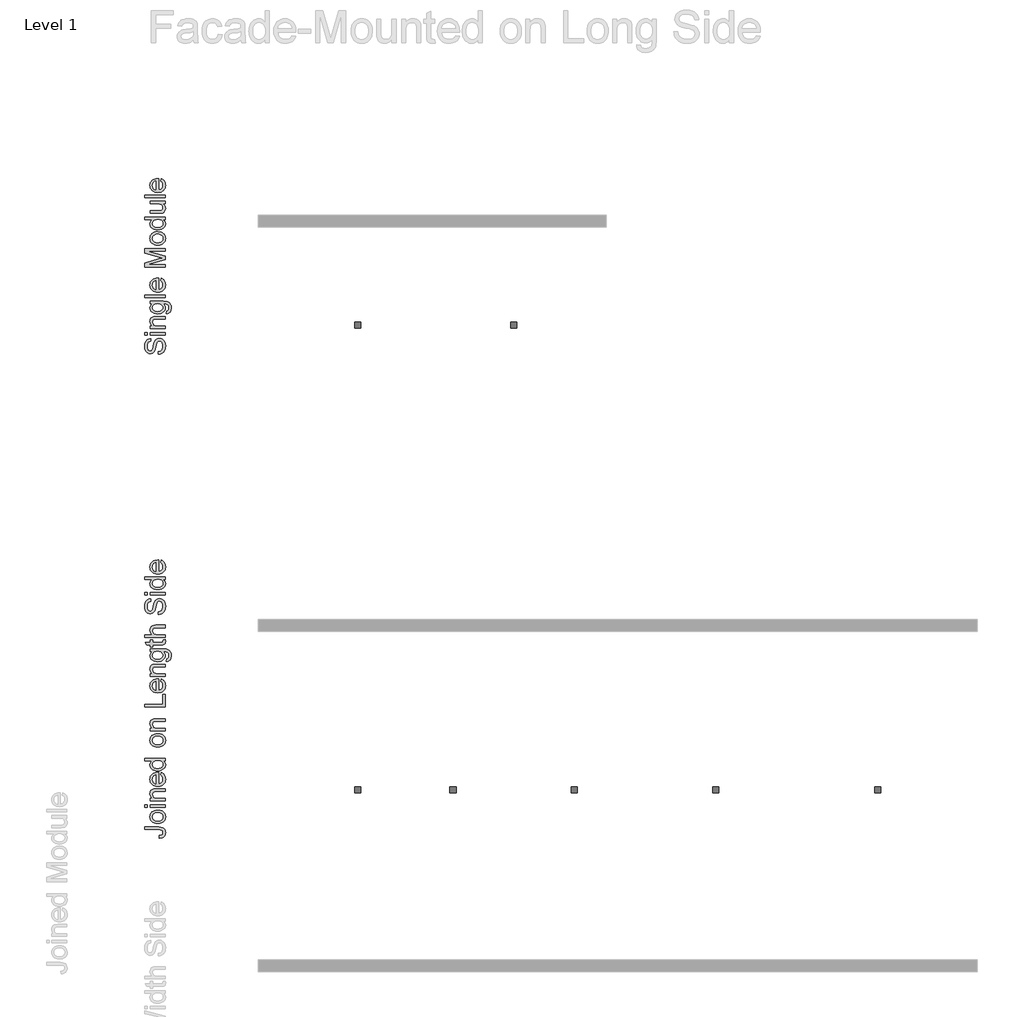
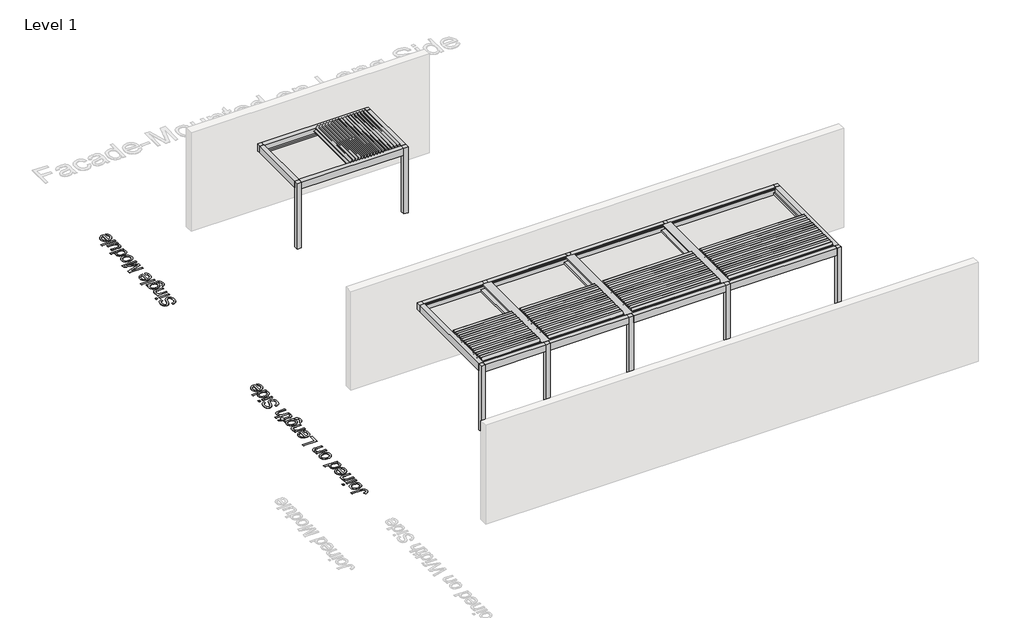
# One storey, part 18 of 69: 4 proxies.
"""IFC4 building model written with IfcOpenShell, lengths in millimetres."""

from ifc_helpers import new_model, si_unit, origin, origin_with_axes, place, context, project, spatial, polyline, outline, extrude, transform, mapped, element, save
from components import generic_models_02ebf654, generic_models_adc54a13, generic_models_c182b0fb

model = new_model("IFC4")

# Units and contexts
model_context = context("Model", 3, world=origin())
ifc_project = project(units=[si_unit("LENGTHUNIT", "METRE", prefix="MILLI")], contexts=[model_context])

# Site, building, storey
site = spatial("IfcSite", under=ifc_project)
building = spatial("IfcBuilding", under=site)
storey = spatial("IfcBuildingStorey", under=building, Name="Level 1", Elevation=0.0)

# Proxies
placement = place(None, origin())
generic_models_shape = generic_models_02ebf654(model_context)
element("IfcBuildingElementProxy", 1, Name="Renson_Camargue_Skye_Facade-Mounted_Patio covers : Renson_Camargue_Skye_Facade-Mounted_Patio covers", ObjectType="Renson_Camargue_Skye_Facade-Mounted_Patio covers : Renson_Camargue_Skye_Facade-Mounted_Patio covers", at=placement, inside=storey, context=model_context, shape_type="MappedRepresentation", body=[
    mapped(generic_models_shape, transform((89532.7944478, -10975.9863343, 0.0), x_axis=(1.0, 0.0, 0.0), y_axis=(0.0, 1.0, 0.0), z_axis=(0.0, 0.0, 1.0))),
])
generic_models_2_shape = generic_models_adc54a13(model_context)
generic_models_3_shape = generic_models_c182b0fb(model_context)
element("IfcBuildingElementProxy", 2, Name="Renson_Camargue_Skye_Facade-Mounted_Patio covers : Renson_Camargue_Skye_Facade-Mounted_Patio covers", ObjectType="Renson_Camargue_Skye_Facade-Mounted_Patio covers : Renson_Camargue_Skye_Facade-Mounted_Patio covers", at=placement, inside=storey, context=model_context, shape_type="MappedRepresentation", body=[
    mapped(generic_models_2_shape, transform((88782.7944478, -21725.9863343, 0.0), x_axis=(1.0, 0.0, 0.0), y_axis=(0.0, 1.0, 0.0), z_axis=(0.0, 0.0, 1.0))),
    mapped(generic_models_3_shape, transform((88782.7944478, -21725.9863343, 0.0), x_axis=(1.0, 0.0, 0.0), y_axis=(0.0, 1.0, 0.0), z_axis=(0.0, 0.0, 1.0))),
])
element("IfcBuildingElementProxy", 3, Name="500mm Arial", ObjectType="500mm Arial", at=placement, inside=storey, context=model_context, shape_type="SweptSolid", body=[
    extrude(outline(polyline([(82669.9627665, -12871.2770418), (82669.9627665, -12808.491848), (82704.8042571, -12801.2874922), (82732.809274, -12788.2583382), (82755.0354779, -12767.932858), (82772.5405295, -12738.8395236), (82783.8988861, -12703.2775974), (82787.685005, -12663.5463419), (82784.8185911, -12628.5668955), (82776.2193494, -12597.9407194), (82762.6077156, -12573.1240132), (82744.7041252, -12555.5729763), (82724.1487187, -12545.1343247), (82702.5816367, -12541.6547741), (82681.5663778, -12544.2606049), (82663.4022043, -12552.0780973), (82647.9051752, -12567.9583368), (82634.8913496, -12594.7524088), (82610.9177063, -12686.1710846), (82595.0527952, -12746.181835), (82579.954305, -12784.5795183), (82558.8317471, -12815.8341595), (82533.2332916, -12837.9837213), (82503.7107615, -12851.1814878), (82470.8159798, -12855.5807434), (82434.0431087, -12850.1391555), (82399.753441, -12833.814392), (82384.2257552, -12821.6781182), (82370.6907634, -12807.0356484), (82349.5988624, -12770.2321205), (82336.7689778, -12726.0556242), (82332.4923496, -12677.1579757), (82336.9682472, -12624.1829684), (82350.39594, -12577.829837), (82372.4995166, -12539.7540505), (82386.7012944, -12524.4409625), (82403.0030653, -12511.6110779), (82440.0058627, -12493.7994579), (82481.607185, -12486.7177295), (82481.607185, -12549.5029234), (82461.5729447, -12553.7029095), (82444.1445351, -12561.0298926), (82429.3219564, -12571.4838726), (82417.1052085, -12585.0648496), (82407.555605, -12602.0257424), (82400.7344597, -12622.6194699), (82395.2775434, -12674.7054291), (82400.673146, -12728.0176615), (82407.4176493, -12748.3967912), (82416.8599538, -12764.5912632), (82428.2106462, -12776.9306385), (82440.680313, -12785.7444779), (82454.2689542, -12791.0327816), (82468.9765698, -12792.7955495), (82493.1034973, -12787.7984858), (82512.5092726, -12772.8072944), (82521.139171, -12759.0423765), (82529.86104, -12737.3679956), (82547.5806894, -12670.2908451), (82564.4112907, -12601.0677164), (82579.0959137, -12559.1904826), (82601.8739406, -12523.3986301), (82629.9862564, -12498.4286397), (82663.1262928, -12483.7593452), (82700.9874814, -12478.8695803), (82739.691733, -12484.4951091), (82776.0967221, -12501.3716957), (82807.4280054, -12528.8095611), (82830.9111394, -12566.1189268), (82845.5804339, -12610.9852018), (82850.4701988, -12661.0937952), (82845.1972235, -12722.6067305), (82838.6060045, -12749.2820073), (82829.3782977, -12773.2364901), (82817.498775, -12794.615799), (82802.9521078, -12813.5655538), (82785.7382961, -12830.0857547), (82765.8573399, -12844.1764015), (82743.9530328, -12855.5270939), (82720.6691682, -12863.8274314), (82696.0057461, -12869.0774141), (82669.9627665, -12871.2770418)])), origin_with_axes(), (0.0, 0.0, 1.0), 5.0),
    extrude(outline(polyline([(82403.1256927, -12392.5399388), (82340.3404988, -12392.5399388), (82340.3404988, -12329.7547449), (82403.1256927, -12329.7547449), (82403.1256927, -12392.5399388)])), origin_with_axes(), (0.0, 0.0, 1.0), 5.0),
    extrude(outline(polyline([(82842.6220496, -12392.5399388), (82473.7590357, -12392.5399388), (82473.7590357, -12329.7547449), (82842.6220496, -12329.7547449), (82842.6220496, -12392.5399388)])), origin_with_axes(), (0.0, 0.0, 1.0), 5.0),
    extrude(outline(polyline([(82842.6220496, -12235.5769542), (82473.7590357, -12235.5769542), (82473.7590357, -12172.7917603), (82525.2625151, -12172.7917603), (82499.2961776, -12150.9794237), (82480.7487936, -12124.7831599), (82469.6203633, -12094.2029691), (82465.9108865, -12059.2388511), (82468.8999277, -12028.2907783), (82477.8670514, -11999.9485362), (82491.693283, -11976.3121181), (82509.2596483, -11959.4815168), (82530.5201619, -11948.0618465), (82555.4288387, -11940.6582214), (82616.1293679, -11937.3472834), (82842.6220496, -11937.3472834), (82842.6220496, -12000.1324772), (82624.5906538, -12000.1324772), (82592.1250677, -12001.9412304), (82569.0404725, -12007.3674898), (82552.5011111, -12017.3769458), (82539.6712265, -12032.9352885), (82531.4398669, -12052.8775583), (82528.6960804, -12076.0387956), (82530.2365862, -12095.1035136), (82534.8581038, -12112.8116667), (82542.560633, -12129.163255), (82553.344174, -12144.1582784), (82568.435, -12156.6854267), (82589.0593844, -12165.6333898), (82615.2173271, -12171.0021677), (82646.9088281, -12172.7917603), (82842.6220496, -12172.7917603), (82842.6220496, -12235.5769542)])), origin_with_axes(), (0.0, 0.0, 1.0), 5.0),
    extrude(outline(polyline([(82874.0146465, -11866.7139403), (82881.8627957, -11803.9287465), (82901.4831688, -11797.0003022), (82914.9721753, -11783.5726094), (82925.4568122, -11757.1770763), (82928.9516911, -11722.6268256), (82924.9969597, -11685.7773124), (82913.1327653, -11658.3701037), (82894.1255289, -11639.3628673), (82868.7416712, -11627.7132708), (82841.7330014, -11624.3103623), (82795.5331542, -11623.4213142), (82816.1345459, -11644.3139458), (82830.8498257, -11667.6284673), (82839.6789936, -11693.3648785), (82842.6220496, -11721.5231796), (82839.1961485, -11755.9469708), (82828.9184453, -11786.2550823), (82811.7889399, -11812.4475139), (82787.8076323, -11834.5242658), (82759.0361946, -11852.0408137), (82727.5362987, -11864.5526336), (82693.3079448, -11872.0597256), (82656.3511327, -11874.5620896), (82605.6600594, -11870.0708635), (82559.046345, -11856.5971855), (82519.5450157, -11834.6162363), (82503.5996305, -11820.6137278), (82490.1910982, -11804.6031968), (82479.5685056, -11786.8413942), (82471.9809394, -11767.585071), (82467.4283997, -11746.8342273), (82465.9108865, -11724.5888629), (82469.3444518, -11695.2272811), (82479.6451477, -11668.5788291), (82496.8129741, -11644.6435068), (82520.8479311, -11623.4213142), (82473.7590357, -11623.4213142), (82473.7590357, -11560.6361203), (82792.2222162, -11560.6361203), (82865.75263, -11564.928077), (82893.1023571, -11570.2930227), (82914.1750976, -11577.8039468), (82946.2881301, -11599.9841654), (82970.8902386, -11632.1891684), (82980.0106464, -11651.8746873), (82986.5252234, -11673.7138486), (82991.736885, -11723.8530989), (82989.9013071, -11754.6133986), (82984.3945735, -11782.269694), (82975.2166841, -11806.8219851), (82962.367639, -11828.2702718), (82945.8321097, -11845.5952145), (82925.5947679, -11857.7774735), (82901.6556135, -11864.8170488), (82874.0146465, -11866.7139403)]), holes=[polyline([(82652.0591761, -11811.7768957), (82683.1030515, -11810.1022662), (82709.6480367, -11805.0783777), (82731.6941317, -11796.7052302), (82749.2413365, -11784.9828237), (82762.6268761, -11770.7312285), (82772.1879759, -11754.7705149), (82777.9246358, -11737.1006828), (82779.8368557, -11717.7217323), (82777.9361321, -11698.534387), (82772.2339612, -11680.9488612), (82762.730343, -11664.9651549), (82749.4252775, -11650.5832682), (82732.0505174, -11638.6999133), (82710.3378155, -11630.2118027), (82684.2871717, -11625.1189363), (82653.898586, -11623.4213142), (82624.7784269, -11625.1687537), (82599.4673792, -11630.4110721), (82577.965443, -11639.1482695), (82560.2726183, -11651.3803458), (82546.4578829, -11666.072633), (82536.5902148, -11682.1904629), (82530.669614, -11699.7338356), (82528.6960804, -11718.7027509), (82530.6389571, -11737.3536017), (82536.4675875, -11754.555917), (82546.1819714, -11770.3096971), (82559.7821089, -11784.6149417), (82577.2066864, -11796.4982966), (82598.39439, -11804.9864072), (82623.3452199, -11810.0792736), (82652.0591761, -11811.7768957)])]), origin_with_axes(), (0.0, 0.0, 1.0), 5.0),
    extrude(outline(polyline([(82842.6220496, -11466.4583296), (82340.3404988, -11466.4583296), (82340.3404988, -11403.6731357), (82842.6220496, -11403.6731357), (82842.6220496, -11466.4583296)])), origin_with_axes(), (0.0, 0.0, 1.0), 5.0),
    extrude(outline(polyline([(82732.7479603, -11051.2421844), (82740.5961096, -10989.6832638), (82765.2518675, -10999.1217363), (82786.9798978, -11011.8634825), (82805.7802006, -11027.9085024), (82821.6527758, -11047.2567961), (82834.2603984, -11069.7090941), (82843.2658431, -11095.066127), (82848.6691099, -11123.3278949), (82850.4701988, -11154.4943977), (82847.3623624, -11193.4515681), (82838.038853, -11228.1627672), (82822.4996709, -11258.6279949), (82800.7448158, -11284.8472513), (82773.3797603, -11305.9314881), (82741.0099768, -11320.9916573), (82703.6354654, -11330.0277588), (82661.2562259, -11333.0397927), (82617.4399475, -11329.997102), (82578.8200022, -11320.86903), (82545.3963901, -11305.6555766), (82517.1691112, -11284.356742), (82494.7436379, -11258.2064635), (82478.7254427, -11228.4386787), (82469.1145256, -11195.0533876), (82465.9108865, -11158.0505903), (82469.1068613, -11122.2395773), (82478.6947858, -11089.8544654), (82494.67466, -11060.8952546), (82517.0464838, -11035.3619449), (82545.2124491, -11014.5191306), (82578.5747475, -10999.6314061), (82617.1333792, -10990.6987714), (82660.888344, -10987.7212265), (82677.8109157, -10988.0891085), (82677.8109157, -11270.2545988), (82702.8652124, -11266.617932), (82724.8078406, -11259.3867515), (82743.6388002, -11248.5610574), (82759.3580913, -11234.1408496), (82771.751116, -11216.9232058), (82780.6032766, -11197.7052037), (82785.9145729, -11176.4868432), (82787.685005, -11153.2681243), (82784.4047238, -11119.8521765), (82774.5638805, -11091.7092038), (82757.5493382, -11068.8392065), (82732.7479603, -11051.2421844)]), holes=[polyline([(82615.0257219, -11270.2545988), (82615.0257219, -11050.5064204), (82581.8550287, -11058.9983631), (82558.12664, -11075.6450234), (82545.2507701, -11092.7668646), (82536.0537203, -11112.2492819), (82530.5354903, -11134.0922754), (82528.6960804, -11158.295845), (82534.5668639, -11200.6176028), (82541.9053432, -11219.0308631), (82552.1792144, -11235.6123776), (82564.9132964, -11249.5267477), (82579.6324083, -11259.9385745), (82596.3365501, -11266.8478583), (82615.0257219, -11270.2545988)])]), origin_with_axes(), (0.0, 0.0, 1.0), 5.0),
    extrude(outline(polyline([(82842.6220496, -10720.8841527), (82340.3404988, -10720.8841527), (82340.3404988, -10612.8494734), (82694.3656055, -10510.0877694), (82768.3098865, -10489.3637504), (82688.2342389, -10466.9229487), (82340.3404988, -10365.8780273), (82340.3404988, -10257.8433481), (82842.6220496, -10257.8433481), (82842.6220496, -10320.6285419), (82403.1256927, -10320.6285419), (82842.6220496, -10446.8120663), (82842.6220496, -10531.9154345), (82403.1256927, -10658.0989588), (82842.6220496, -10658.0989588), (82842.6220496, -10720.8841527)])), origin_with_axes(), (0.0, 0.0, 1.0), 5.0),
    extrude(outline(polyline([(82658.1905427, -10171.5137066), (82610.4195327, -10168.1184623), (82569.2550703, -10157.9327296), (82534.6971554, -10140.9565083), (82506.745788, -10117.1897986), (82488.8805186, -10093.2621405), (82476.1196119, -10066.8512789), (82468.4630679, -10037.9572139), (82465.9108865, -10006.5799454), (82469.0187229, -9971.9415563), (82478.3422323, -9940.6217693), (82493.8814145, -9912.6205846), (82515.6362695, -9887.9380019), (82542.8710335, -9867.7926306), (82574.8499423, -9853.4030796), (82611.5729961, -9844.7693491), (82653.0401947, -9841.8914389), (82716.4691821, -9846.9804731), (82742.5044974, -9853.341766), (82764.7536939, -9862.2475759), (82783.9716961, -9873.586772), (82800.9134284, -9887.2482232), (82815.5788908, -9903.2319295), (82827.9680834, -9921.5378908), (82844.84467, -9962.2654934), (82850.4701988, -10006.5799454), (82847.3738587, -10041.7241722), (82838.0848383, -10073.3351991), (82822.6031377, -10101.413026), (82800.9287568, -10125.9576528), (82773.4295776, -10145.8884263), (82740.4734822, -10160.1246931), (82702.0604706, -10168.6664532), (82658.1905427, -10171.5137066)]), holes=[polyline([(82658.0679153, -10108.7285127), (82688.5216467, -10106.9120954), (82714.8903552, -10101.4628433), (82737.1740406, -10092.3807566), (82755.372703, -10079.6658351), (82769.5093351, -10064.1994629), (82779.6069295, -10046.8630239), (82785.6654861, -10027.656518), (82787.685005, -10006.5799454), (82785.6539898, -9985.6106717), (82779.5609442, -9966.4808079), (82769.4058683, -9949.1903541), (82755.1887621, -9933.7393103), (82736.8099907, -9921.0243889), (82714.1699196, -9911.9423021), (82687.2685487, -9906.4930501), (82656.105878, -9904.6766327), (82626.6178368, -9906.5045464), (82600.9389072, -9911.9882874), (82579.069089, -9921.1278557), (82561.0083823, -9933.9232513), (82546.8717502, -9949.4317767), (82536.7741558, -9966.7107342), (82530.7155992, -9985.7601237), (82528.6960804, -10006.5799454), (82530.707935, -10027.656518), (82536.743499, -10046.8630239), (82546.8027723, -10064.1994629), (82560.8857549, -10079.6658351), (82579.0307679, -10092.3807566), (82601.2761323, -10101.4628433), (82627.6218481, -10106.9120954), (82658.0679153, -10108.7285127)])]), origin_with_axes(), (0.0, 0.0, 1.0), 5.0),
    extrude(outline(polyline([(82842.6220496, -9543.6617681), (82783.3930483, -9543.6617681), (82812.7393017, -9562.4467425), (82833.7009112, -9585.2017767), (82846.2778769, -9611.9268708), (82850.4701988, -9642.6220248), (82844.4001459, -9683.2116716), (82826.1899871, -9720.3677531), (82797.1119811, -9751.8216637), (82758.4383863, -9775.3047977), (82711.7327014, -9789.9281071), (82658.5584247, -9794.8025435), (82606.0432698, -9790.3113175), (82558.6171493, -9776.8376394), (82537.4869272, -9766.7362129), (82518.9778643, -9754.3968377), (82503.0899606, -9739.8195136), (82489.8232162, -9723.0042408), (82471.8889689, -9685.0357532), (82465.9108865, -9642.8672795), (82470.1875147, -9612.1491329), (82483.0173993, -9584.9871789), (82502.6837576, -9561.9638974), (82527.469807, -9543.6617681), (82340.3404988, -9543.6617681), (82340.3404988, -9480.8765743), (82842.6220496, -9480.8765743), (82842.6220496, -9543.6617681)]), holes=[polyline([(82658.31317, -9732.0173497), (82688.7592372, -9730.2469175), (82715.104953, -9724.9356212), (82737.3503174, -9716.0834607), (82755.4953304, -9703.690436), (82769.578313, -9688.8908499), (82779.6375863, -9672.8190053), (82785.6731503, -9655.474902), (82787.685005, -9636.8585402), (82785.7651208, -9618.15404), (82780.0054683, -9600.9134036), (82770.4060475, -9585.136631), (82756.9668584, -9570.8237221), (82739.580602, -9558.9403672), (82718.1399795, -9550.4522566), (82692.6449908, -9545.3593902), (82663.0956359, -9543.6617681), (82630.6990277, -9545.3900471), (82602.9162729, -9550.5748839), (82579.7473714, -9559.2162787), (82561.1923233, -9571.3142314), (82546.975217, -9585.9413728), (82536.8201411, -9602.1703338), (82530.7270955, -9620.0011142), (82528.6960804, -9639.4337142), (82530.6466213, -9658.417958), (82536.4982443, -9675.7620612), (82546.2509493, -9691.4660239), (82559.9047363, -9705.529846), (82577.7585094, -9717.1181288), (82600.1111727, -9725.3954737), (82626.9627262, -9730.3618807), (82658.31317, -9732.0173497)])]), origin_with_axes(), (0.0, 0.0, 1.0), 5.0),
    extrude(outline(polyline([(82842.6220496, -9151.2543066), (82779.2237191, -9151.2543066), (82810.394054, -9173.9710198), (82832.6585789, -9200.4278666), (82846.0172938, -9230.6248471), (82850.4701988, -9264.5619611), (82847.3432018, -9295.142152), (82837.962211, -9323.6070213), (82823.8600678, -9347.4886942), (82806.569614, -9364.3192955), (82785.5696835, -9375.6469952), (82760.33911, -9383.0199636), (82701.9685001, -9386.6987835), (82473.7590357, -9386.6987835), (82473.7590357, -9323.9135897), (82672.4153131, -9323.9135897), (82736.4267803, -9320.1121424), (82757.7792644, -9310.9610778), (82774.0120575, -9295.2801077), (82784.2667681, -9274.1115646), (82787.685005, -9248.4977807), (82784.190126, -9221.4124688), (82773.7054891, -9196.0745963), (82757.1967846, -9175.1819647), (82735.6297026, -9161.4323751), (82706.0918441, -9153.7988237), (82665.6708099, -9151.2543066), (82473.7590357, -9151.2543066), (82473.7590357, -9088.4691128), (82842.6220496, -9088.4691128), (82842.6220496, -9151.2543066)])), origin_with_axes(), (0.0, 0.0, 1.0), 5.0),
    extrude(outline(polyline([(82842.6220496, -9002.1394712), (82340.3404988, -9002.1394712), (82340.3404988, -8939.3542774), (82842.6220496, -8939.3542774), (82842.6220496, -9002.1394712)])), origin_with_axes(), (0.0, 0.0, 1.0), 5.0),
    extrude(outline(polyline([(82732.7479603, -8586.923326), (82740.5961096, -8525.3644055), (82765.2518675, -8534.8028779), (82786.9798978, -8547.5446241), (82805.7802006, -8563.589644), (82821.6527758, -8582.9379377), (82834.2603984, -8605.3902357), (82843.2658431, -8630.7472687), (82848.6691099, -8659.0090365), (82850.4701988, -8690.1755393), (82847.3623624, -8729.1327098), (82838.038853, -8763.8439088), (82822.4996709, -8794.3091366), (82800.7448158, -8820.5283929), (82773.3797603, -8841.6126298), (82741.0099768, -8856.672799), (82703.6354654, -8865.7089005), (82661.2562259, -8868.7209343), (82617.4399475, -8865.6782436), (82578.8200022, -8856.5501716), (82545.3963901, -8841.3367183), (82517.1691112, -8820.0378836), (82494.7436379, -8793.8876051), (82478.7254427, -8764.1198203), (82469.1145256, -8730.7345293), (82465.9108865, -8693.7317319), (82469.1068613, -8657.920719), (82478.6947858, -8625.5356071), (82494.67466, -8596.5763963), (82517.0464838, -8571.0430865), (82545.2124491, -8550.2002722), (82578.5747475, -8535.3125478), (82617.1333792, -8526.3799131), (82660.888344, -8523.4023682), (82677.8109157, -8523.7702502), (82677.8109157, -8805.9357405), (82702.8652124, -8802.2990737), (82724.8078406, -8795.0678932), (82743.6388002, -8784.2421991), (82759.3580913, -8769.8219913), (82771.751116, -8752.6043475), (82780.6032766, -8733.3863453), (82785.9145729, -8712.1679848), (82787.685005, -8688.949266), (82784.4047238, -8655.5333181), (82774.5638805, -8627.3903455), (82757.5493382, -8604.5203481), (82732.7479603, -8586.923326)]), holes=[polyline([(82615.0257219, -8805.9357405), (82615.0257219, -8586.187562), (82581.8550287, -8594.6795047), (82558.12664, -8611.326165), (82545.2507701, -8628.4480062), (82536.0537203, -8647.9304235), (82530.5354903, -8669.773417), (82528.6960804, -8693.9769866), (82534.5668639, -8736.2987445), (82541.9053432, -8754.7120047), (82552.1792144, -8771.2935192), (82564.9132964, -8785.2078893), (82579.6324083, -8795.6197162), (82596.3365501, -8802.5289999), (82615.0257219, -8805.9357405)])]), origin_with_axes(), (0.0, 0.0, 1.0), 5.0),
])
element("IfcBuildingElementProxy", 4, Name="500mm Arial", ObjectType="500mm Arial", at=placement, inside=storey, context=model_context, shape_type="SweptSolid", body=[
    extrude(outline(polyline([(82701.6006181, -24838.7531425), (82693.5072142, -24775.9679487), (82739.1552384, -24769.4380433), (82755.5643083, -24763.023101), (82767.6967499, -24754.5081656), (82782.6879412, -24731.6994819), (82787.685005, -24701.5331583), (82784.8492479, -24678.3412642), (82776.3419768, -24658.5522786), (82762.9449408, -24643.2851758), (82745.4398892, -24633.6589302), (82720.1020168, -24628.5545675), (82683.2065183, -24626.8531133), (82340.3404988, -24626.8531133), (82340.3404988, -24564.0679195), (82682.1028723, -24564.0679195), (82738.0056072, -24567.8540383), (82779.6529147, -24579.2123949), (82810.0798214, -24598.8021112), (82832.3213537, -24627.282309), (82845.9329875, -24663.0435046), (82850.4701988, -24704.4762143), (82848.1287832, -24735.4166229), (82841.1045363, -24762.509599), (82829.3974583, -24785.7551426), (82813.007549, -24805.1532536), (82791.9961221, -24820.3590428), (82766.4244913, -24831.0276206), (82736.2926567, -24837.1589872), (82701.6006181, -24838.7531425)])), origin_with_axes(), (0.0, 0.0, 1.0), 5.0),
    extrude(outline(polyline([(82658.1905427, -24477.7382779), (82610.4195327, -24474.3430337), (82569.2550703, -24464.157301), (82534.6971554, -24447.1810797), (82506.745788, -24423.41437), (82488.8805186, -24399.4867119), (82476.1196119, -24373.0758503), (82468.4630679, -24344.1817853), (82465.9108865, -24312.8045168), (82469.0187229, -24278.1661277), (82478.3422323, -24246.8463407), (82493.8814145, -24218.8451559), (82515.6362695, -24194.1625733), (82542.8710335, -24174.017202), (82574.8499423, -24159.627651), (82611.5729961, -24150.9939205), (82653.0401947, -24148.1160103), (82716.4691821, -24153.2050445), (82742.5044974, -24159.5663374), (82764.7536939, -24168.4721473), (82783.9716961, -24179.8113434), (82800.9134284, -24193.4727946), (82815.5788908, -24209.4565009), (82827.9680834, -24227.7624622), (82844.84467, -24268.4900648), (82850.4701988, -24312.8045168), (82847.3738587, -24347.9487436), (82838.0848383, -24379.5597705), (82822.6031377, -24407.6375973), (82800.9287568, -24432.1822242), (82773.4295776, -24452.1129977), (82740.4734822, -24466.3492645), (82702.0604706, -24474.8910246), (82658.1905427, -24477.7382779)]), holes=[polyline([(82658.0679153, -24414.9530841), (82688.5216467, -24413.1366667), (82714.8903552, -24407.6874147), (82737.1740406, -24398.6053279), (82755.372703, -24385.8904065), (82769.5093351, -24370.4240343), (82779.6069295, -24353.0875952), (82785.6654861, -24333.8810894), (82787.685005, -24312.8045168), (82785.6539898, -24291.835243), (82779.5609442, -24272.7053793), (82769.4058683, -24255.4149255), (82755.1887621, -24239.9638817), (82736.8099907, -24227.2489603), (82714.1699196, -24218.1668735), (82687.2685487, -24212.7176215), (82656.105878, -24210.9012041), (82626.6178368, -24212.7291178), (82600.9389072, -24218.2128588), (82579.069089, -24227.3524271), (82561.0083823, -24240.1478227), (82546.8717502, -24255.6563481), (82536.7741558, -24272.9353055), (82530.7155992, -24291.9846951), (82528.6960804, -24312.8045168), (82530.707935, -24333.8810894), (82536.743499, -24353.0875952), (82546.8027723, -24370.4240343), (82560.8857549, -24385.8904065), (82579.0307679, -24398.6053279), (82601.2761323, -24407.6874147), (82627.6218481, -24413.1366667), (82658.0679153, -24414.9530841)])]), origin_with_axes(), (0.0, 0.0, 1.0), 5.0),
    extrude(outline(polyline([(82403.1256927, -24077.4826672), (82340.3404988, -24077.4826672), (82340.3404988, -24014.6974733), (82403.1256927, -24014.6974733), (82403.1256927, -24077.4826672)])), origin_with_axes(), (0.0, 0.0, 1.0), 5.0),
    extrude(outline(polyline([(82842.6220496, -24077.4826672), (82473.7590357, -24077.4826672), (82473.7590357, -24014.6974733), (82842.6220496, -24014.6974733), (82842.6220496, -24077.4826672)])), origin_with_axes(), (0.0, 0.0, 1.0), 5.0),
    extrude(outline(polyline([(82842.6220496, -23920.5196826), (82473.7590357, -23920.5196826), (82473.7590357, -23857.7344887), (82525.2625151, -23857.7344887), (82499.2961776, -23835.9221521), (82480.7487936, -23809.7258884), (82469.6203633, -23779.1456975), (82465.9108865, -23744.1815796), (82468.8999277, -23713.2335067), (82477.8670514, -23684.8912647), (82491.693283, -23661.2548465), (82509.2596483, -23644.4242452), (82530.5201619, -23633.0045749), (82555.4288387, -23625.6009498), (82616.1293679, -23622.2900118), (82842.6220496, -23622.2900118), (82842.6220496, -23685.0752057), (82624.5906538, -23685.0752057), (82592.1250677, -23686.8839588), (82569.0404725, -23692.3102182), (82552.5011111, -23702.3196742), (82539.6712265, -23717.8780169), (82531.4398669, -23737.8202867), (82528.6960804, -23760.981524), (82530.2365862, -23780.046242), (82534.8581038, -23797.7543951), (82542.560633, -23814.1059834), (82553.344174, -23829.1010068), (82568.435, -23841.6281551), (82589.0593844, -23850.5761182), (82615.2173271, -23855.9448961), (82646.9088281, -23857.7344887), (82842.6220496, -23857.7344887), (82842.6220496, -23920.5196826)])), origin_with_axes(), (0.0, 0.0, 1.0), 5.0),
    extrude(outline(polyline([(82732.7479603, -23277.7072097), (82740.5961096, -23216.1482891), (82765.2518675, -23225.5867616), (82786.9798978, -23238.3285078), (82805.7802006, -23254.3735277), (82821.6527758, -23273.7218214), (82834.2603984, -23296.1741194), (82843.2658431, -23321.5311523), (82848.6691099, -23349.7929202), (82850.4701988, -23380.959423), (82847.3623624, -23419.9165934), (82838.038853, -23454.6277925), (82822.4996709, -23485.0930202), (82800.7448158, -23511.3122766), (82773.3797603, -23532.3965135), (82741.0099768, -23547.4566826), (82703.6354654, -23556.4927841), (82661.2562259, -23559.504818), (82617.4399475, -23556.4621273), (82578.8200022, -23547.3340553), (82545.3963901, -23532.120602), (82517.1691112, -23510.8217673), (82494.7436379, -23484.6714888), (82478.7254427, -23454.903704), (82469.1145256, -23421.518413), (82465.9108865, -23384.5156156), (82469.1068613, -23348.7046026), (82478.6947858, -23316.3194908), (82494.67466, -23287.3602799), (82517.0464838, -23261.8269702), (82545.2124491, -23240.9841559), (82578.5747475, -23226.0964314), (82617.1333792, -23217.1637967), (82660.888344, -23214.1862518), (82677.8109157, -23214.5541338), (82677.8109157, -23496.7196241), (82702.8652124, -23493.0829573), (82724.8078406, -23485.8517769), (82743.6388002, -23475.0260827), (82759.3580913, -23460.6058749), (82771.751116, -23443.3882311), (82780.6032766, -23424.170229), (82785.9145729, -23402.9518685), (82787.685005, -23379.7331497), (82784.4047238, -23346.3172018), (82774.5638805, -23318.1742291), (82757.5493382, -23295.3042318), (82732.7479603, -23277.7072097)]), holes=[polyline([(82615.0257219, -23496.7196241), (82615.0257219, -23276.9714457), (82581.8550287, -23285.4633884), (82558.12664, -23302.1100487), (82545.2507701, -23319.2318899), (82536.0537203, -23338.7143072), (82530.5354903, -23360.5573007), (82528.6960804, -23384.7608703), (82534.5668639, -23427.0826281), (82541.9053432, -23445.4958884), (82552.1792144, -23462.0774029), (82564.9132964, -23475.991773), (82579.6324083, -23486.4035999), (82596.3365501, -23493.3128836), (82615.0257219, -23496.7196241)])]), origin_with_axes(), (0.0, 0.0, 1.0), 5.0),
    extrude(outline(polyline([(82842.6220496, -22923.8047303), (82783.3930483, -22923.8047303), (82812.7393017, -22942.5897047), (82833.7009112, -22965.3447389), (82846.2778769, -22992.069833), (82850.4701988, -23022.764987), (82844.4001459, -23063.3546338), (82826.1899871, -23100.5107153), (82797.1119811, -23131.9646259), (82758.4383863, -23155.4477599), (82711.7327014, -23170.0710693), (82658.5584247, -23174.9455057), (82606.0432698, -23170.4542797), (82558.6171493, -23156.9806016), (82537.4869272, -23146.8791751), (82518.9778643, -23134.5397999), (82503.0899606, -23119.9624758), (82489.8232162, -23103.147203), (82471.8889689, -23065.1787154), (82465.9108865, -23023.0102417), (82470.1875147, -22992.2920951), (82483.0173993, -22965.1301411), (82502.6837576, -22942.1068596), (82527.469807, -22923.8047303), (82340.3404988, -22923.8047303), (82340.3404988, -22861.0195365), (82842.6220496, -22861.0195365), (82842.6220496, -22923.8047303)]), holes=[polyline([(82658.31317, -23112.1603118), (82688.7592372, -23110.3898797), (82715.104953, -23105.0785834), (82737.3503174, -23096.2264229), (82755.4953304, -23083.8333982), (82769.578313, -23069.0338121), (82779.6375863, -23052.9619675), (82785.6731503, -23035.6178642), (82787.685005, -23017.0015024), (82785.7651208, -22998.2970022), (82780.0054683, -22981.0563658), (82770.4060475, -22965.2795932), (82756.9668584, -22950.9666843), (82739.580602, -22939.0833294), (82718.1399795, -22930.5952188), (82692.6449908, -22925.5023524), (82663.0956359, -22923.8047303), (82630.6990277, -22925.5330093), (82602.9162729, -22930.7178461), (82579.7473714, -22939.3592409), (82561.1923233, -22951.4571936), (82546.975217, -22966.084335), (82536.8201411, -22982.313296), (82530.7270955, -23000.1440764), (82528.6960804, -23019.5766764), (82530.6466213, -23038.5609202), (82536.4982443, -23055.9050234), (82546.2509493, -23071.6089861), (82559.9047363, -23085.6728082), (82577.7585094, -23097.261091), (82600.1111727, -23105.5384359), (82626.9627262, -23110.5048429), (82658.31317, -23112.1603118)])]), origin_with_axes(), (0.0, 0.0, 1.0), 5.0),
    extrude(outline(polyline([(82658.1905427, -22586.3343134), (82610.4195327, -22582.9390692), (82569.2550703, -22572.7533364), (82534.6971554, -22555.7771152), (82506.745788, -22532.0104055), (82488.8805186, -22508.0827473), (82476.1196119, -22481.6718858), (82468.4630679, -22452.7778207), (82465.9108865, -22421.4005522), (82469.0187229, -22386.7621631), (82478.3422323, -22355.4423762), (82493.8814145, -22327.4411914), (82515.6362695, -22302.7586088), (82542.8710335, -22282.6132375), (82574.8499423, -22268.2236865), (82611.5729961, -22259.5899559), (82653.0401947, -22256.7120457), (82716.4691821, -22261.80108), (82742.5044974, -22268.1623728), (82764.7536939, -22277.0681828), (82783.9716961, -22288.4073789), (82800.9134284, -22302.06883), (82815.5788908, -22318.0525363), (82827.9680834, -22336.3584977), (82844.84467, -22377.0861002), (82850.4701988, -22421.4005522), (82847.3738587, -22456.5447791), (82838.0848383, -22488.1558059), (82822.6031377, -22516.2336328), (82800.9287568, -22540.7782597), (82773.4295776, -22560.7090332), (82740.4734822, -22574.9453), (82702.0604706, -22583.48706), (82658.1905427, -22586.3343134)]), holes=[polyline([(82658.0679153, -22523.5491196), (82688.5216467, -22521.7327022), (82714.8903552, -22516.2834502), (82737.1740406, -22507.2013634), (82755.372703, -22494.4864419), (82769.5093351, -22479.0200697), (82779.6069295, -22461.6836307), (82785.6654861, -22442.4771249), (82787.685005, -22421.4005522), (82785.6539898, -22400.4312785), (82779.5609442, -22381.3014148), (82769.4058683, -22364.010961), (82755.1887621, -22348.5599172), (82736.8099907, -22335.8449957), (82714.1699196, -22326.762909), (82687.2685487, -22321.3136569), (82656.105878, -22319.4972396), (82626.6178368, -22321.3251532), (82600.9389072, -22326.8088942), (82579.069089, -22335.9484625), (82561.0083823, -22348.7438582), (82546.8717502, -22364.2523835), (82536.7741558, -22381.531341), (82530.7155992, -22400.5807306), (82528.6960804, -22421.4005522), (82530.707935, -22442.4771249), (82536.743499, -22461.6836307), (82546.8027723, -22479.0200697), (82560.8857549, -22494.4864419), (82579.0307679, -22507.2013634), (82601.2761323, -22516.2834502), (82627.6218481, -22521.7327022), (82658.0679153, -22523.5491196)])]), origin_with_axes(), (0.0, 0.0, 1.0), 5.0),
    extrude(outline(polyline([(82842.6220496, -22186.0787027), (82473.7590357, -22186.0787027), (82473.7590357, -22123.2935088), (82525.2625151, -22123.2935088), (82499.2961776, -22101.4811722), (82480.7487936, -22075.2849084), (82469.6203633, -22044.7047176), (82465.9108865, -22009.7405996), (82468.8999277, -21978.7925268), (82477.8670514, -21950.4502847), (82491.693283, -21926.8138666), (82509.2596483, -21909.9832653), (82530.5201619, -21898.563595), (82555.4288387, -21891.1599699), (82616.1293679, -21887.8490319), (82842.6220496, -21887.8490319), (82842.6220496, -21950.6342257), (82624.5906538, -21950.6342257), (82592.1250677, -21952.4429789), (82569.0404725, -21957.8692383), (82552.5011111, -21967.8786943), (82539.6712265, -21983.437037), (82531.4398669, -22003.3793068), (82528.6960804, -22026.5405441), (82530.2365862, -22045.6052621), (82534.8581038, -22063.3134152), (82542.560633, -22079.6650034), (82553.344174, -22094.6600269), (82568.435, -22107.1871752), (82589.0593844, -22116.1351383), (82615.2173271, -22121.5039162), (82646.9088281, -22123.2935088), (82842.6220496, -22123.2935088), (82842.6220496, -22186.0787027)])), origin_with_axes(), (0.0, 0.0, 1.0), 5.0),
    extrude(outline(polyline([(82842.6220496, -21597.4675104), (82340.3404988, -21597.4675104), (82340.3404988, -21534.6823165), (82779.8368557, -21534.6823165), (82779.8368557, -21283.5415412), (82842.6220496, -21283.5415412), (82842.6220496, -21597.4675104)])), origin_with_axes(), (0.0, 0.0, 1.0), 5.0),
    extrude(outline(polyline([(82732.7479603, -20962.5031867), (82740.5961096, -20900.9442662), (82765.2518675, -20910.3827386), (82786.9798978, -20923.1244848), (82805.7802006, -20939.1695047), (82821.6527758, -20958.5177984), (82834.2603984, -20980.9700964), (82843.2658431, -21006.3271294), (82848.6691099, -21034.5888972), (82850.4701988, -21065.7554), (82847.3623624, -21104.7125705), (82838.038853, -21139.4237695), (82822.4996709, -21169.8889973), (82800.7448158, -21196.1082536), (82773.3797603, -21217.1924905), (82741.0099768, -21232.2526597), (82703.6354654, -21241.2887612), (82661.2562259, -21244.300795), (82617.4399475, -21241.2581043), (82578.8200022, -21232.1300323), (82545.3963901, -21216.916579), (82517.1691112, -21195.6177443), (82494.7436379, -21169.4674658), (82478.7254427, -21139.699681), (82469.1145256, -21106.31439), (82465.9108865, -21069.3115926), (82469.1068613, -21033.5005797), (82478.6947858, -21001.1154678), (82494.67466, -20972.156257), (82517.0464838, -20946.6229472), (82545.2124491, -20925.7801329), (82578.5747475, -20910.8924085), (82617.1333792, -20901.9597738), (82660.888344, -20898.9822289), (82677.8109157, -20899.3501109), (82677.8109157, -21181.5156012), (82702.8652124, -21177.8789344), (82724.8078406, -21170.6477539), (82743.6388002, -21159.8220598), (82759.3580913, -21145.401852), (82771.751116, -21128.1842082), (82780.6032766, -21108.966206), (82785.9145729, -21087.7478455), (82787.685005, -21064.5291267), (82784.4047238, -21031.1131788), (82774.5638805, -21002.9702062), (82757.5493382, -20980.1002088), (82732.7479603, -20962.5031867)]), holes=[polyline([(82615.0257219, -21181.5156012), (82615.0257219, -20961.7674227), (82581.8550287, -20970.2593654), (82558.12664, -20986.9060257), (82545.2507701, -21004.0278669), (82536.0537203, -21023.5102842), (82530.5354903, -21045.3532777), (82528.6960804, -21069.5568473), (82534.5668639, -21111.8786052), (82541.9053432, -21130.2918654), (82552.1792144, -21146.8733799), (82564.9132964, -21160.78775), (82579.6324083, -21171.1995769), (82596.3365501, -21178.1088606), (82615.0257219, -21181.5156012)])]), origin_with_axes(), (0.0, 0.0, 1.0), 5.0),
    extrude(outline(polyline([(82842.6220496, -20836.197035), (82473.7590357, -20836.197035), (82473.7590357, -20773.4118412), (82525.2625151, -20773.4118412), (82499.2961776, -20751.5995045), (82480.7487936, -20725.4032408), (82469.6203633, -20694.82305), (82465.9108865, -20659.858932), (82468.8999277, -20628.9108592), (82477.8670514, -20600.5686171), (82491.693283, -20576.9321989), (82509.2596483, -20560.1015976), (82530.5201619, -20548.6819274), (82555.4288387, -20541.2783022), (82616.1293679, -20537.9673643), (82842.6220496, -20537.9673643), (82842.6220496, -20600.7525581), (82624.5906538, -20600.7525581), (82592.1250677, -20602.5613112), (82569.0404725, -20607.9875707), (82552.5011111, -20617.9970266), (82539.6712265, -20633.5553693), (82531.4398669, -20653.4976392), (82528.6960804, -20676.6588764), (82530.2365862, -20695.7235944), (82534.8581038, -20713.4317475), (82542.560633, -20729.7833358), (82553.344174, -20744.7783592), (82568.435, -20757.3055076), (82589.0593844, -20766.2534707), (82615.2173271, -20771.6222486), (82646.9088281, -20773.4118412), (82842.6220496, -20773.4118412), (82842.6220496, -20836.197035)])), origin_with_axes(), (0.0, 0.0, 1.0), 5.0),
    extrude(outline(polyline([(82874.0146465, -20467.3340212), (82881.8627957, -20404.5488273), (82901.4831688, -20397.6203831), (82914.9721753, -20384.1926903), (82925.4568122, -20357.7971571), (82928.9516911, -20323.2469064), (82924.9969597, -20286.3973932), (82913.1327653, -20258.9901846), (82894.1255289, -20239.9829482), (82868.7416712, -20228.3333517), (82841.7330014, -20224.9304432), (82795.5331542, -20224.041395), (82816.1345459, -20244.9340267), (82830.8498257, -20268.2485481), (82839.6789936, -20293.9849594), (82842.6220496, -20322.1432604), (82839.1961485, -20356.5670517), (82828.9184453, -20386.8751632), (82811.7889399, -20413.0675948), (82787.8076323, -20435.1443466), (82759.0361946, -20452.6608945), (82727.5362987, -20465.1727145), (82693.3079448, -20472.6798064), (82656.3511327, -20475.1821704), (82605.6600594, -20470.6909444), (82559.046345, -20457.2172663), (82519.5450157, -20435.2363171), (82503.5996305, -20421.2338087), (82490.1910982, -20405.2232777), (82479.5685056, -20387.4614751), (82471.9809394, -20368.2051519), (82467.4283997, -20347.4543081), (82465.9108865, -20325.2089437), (82469.3444518, -20295.847362), (82479.6451477, -20269.19891), (82496.8129741, -20245.2635876), (82520.8479311, -20224.041395), (82473.7590357, -20224.041395), (82473.7590357, -20161.2562012), (82792.2222162, -20161.2562012), (82865.75263, -20165.5481578), (82893.1023571, -20170.9131036), (82914.1750976, -20178.4240276), (82946.2881301, -20200.6042463), (82970.8902386, -20232.8092493), (82980.0106464, -20252.4947681), (82986.5252234, -20274.3339295), (82991.736885, -20324.4731797), (82989.9013071, -20355.2334795), (82984.3945735, -20382.8897749), (82975.2166841, -20407.442066), (82962.367639, -20428.8903527), (82945.8321097, -20446.2152954), (82925.5947679, -20458.3975544), (82901.6556135, -20465.4371296), (82874.0146465, -20467.3340212)]), holes=[polyline([(82652.0591761, -20412.3969766), (82683.1030515, -20410.7223471), (82709.6480367, -20405.6984586), (82731.6941317, -20397.3253111), (82749.2413365, -20385.6029046), (82762.6268761, -20371.3513094), (82772.1879759, -20355.3905957), (82777.9246358, -20337.7207637), (82779.8368557, -20318.3418131), (82777.9361321, -20299.1544678), (82772.2339612, -20281.568942), (82762.730343, -20265.5852358), (82749.4252775, -20251.203349), (82732.0505174, -20239.3199942), (82710.3378155, -20230.8318835), (82684.2871717, -20225.7390172), (82653.898586, -20224.041395), (82624.7784269, -20225.7888345), (82599.4673792, -20231.031153), (82577.965443, -20239.7683503), (82560.2726183, -20252.0004267), (82546.4578829, -20266.6927139), (82536.5902148, -20282.8105438), (82530.669614, -20300.3539164), (82528.6960804, -20319.3228318), (82530.6389571, -20337.9736825), (82536.4675875, -20355.1759979), (82546.1819714, -20370.9297779), (82559.7821089, -20385.2350226), (82577.2066864, -20397.1183775), (82598.39439, -20405.6064881), (82623.3452199, -20410.6993545), (82652.0591761, -20412.3969766)])]), origin_with_axes(), (0.0, 0.0, 1.0), 5.0),
    extrude(outline(polyline([(82790.2601789, -19933.6598735), (82844.4614595, -19925.8117243), (82850.4701988, -19972.7779923), (82847.864368, -20002.9136591), (82840.0468756, -20025.3851176), (82827.9987403, -20041.2653571), (82812.7009806, -20051.6273666), (82786.4280748, -20057.3295376), (82741.4545009, -20059.2302612), (82536.5442296, -20059.2302612), (82536.5442296, -20106.3191566), (82473.7590357, -20106.3191566), (82473.7590357, -20059.2302612), (82384.1184562, -20059.2302612), (82347.2076294, -19996.4450674), (82473.7590357, -19996.4450674), (82473.7590357, -19933.6598735), (82536.5442296, -19933.6598735), (82536.5442296, -19996.4450674), (82739.6150909, -19996.4450674), (82771.9887065, -19993.1341294), (82783.454362, -19982.4042379), (82787.685005, -19961.0057685), (82790.2601789, -19933.6598735)])), origin_with_axes(), (0.0, 0.0, 1.0), 5.0),
    extrude(outline(polyline([(82842.6220496, -19870.8746797), (82340.3404988, -19870.8746797), (82340.3404988, -19808.0894858), (82525.0172604, -19808.0894858), (82499.1582218, -19785.0278833), (82480.68748, -19759.1305236), (82469.6050349, -19730.397407), (82465.9108865, -19698.8285333), (82469.94226, -19660.9060309), (82482.0363806, -19628.3178175), (82501.2428865, -19602.6580484), (82526.6114157, -19585.5208787), (82561.4682348, -19575.8639764), (82609.13961, -19572.6450089), (82842.6220496, -19572.6450089), (82842.6220496, -19635.4302028), (82615.6388585, -19635.4302028), (82576.3367987, -19640.4272665), (82561.330279, -19646.6735962), (82549.4200994, -19655.4184578), (82540.3533411, -19666.4549177), (82533.8770851, -19679.5760422), (82528.6960804, -19712.0722851), (82532.1909593, -19738.605774), (82542.6755962, -19763.5144507), (82559.1383155, -19784.1464993), (82580.5674417, -19797.8501036), (82609.0476395, -19805.5296403), (82646.6635735, -19808.0894858), (82842.6220496, -19808.0894858), (82842.6220496, -19870.8746797)])), origin_with_axes(), (0.0, 0.0, 1.0), 5.0),
    extrude(outline(polyline([(82669.9627665, -19305.8079351), (82669.9627665, -19243.0227412), (82704.8042571, -19235.8183855), (82732.809274, -19222.7892315), (82755.0354779, -19202.4637513), (82772.5405295, -19173.3704168), (82783.8988861, -19137.8084906), (82787.685005, -19098.0772351), (82784.8185911, -19063.0977888), (82776.2193494, -19032.4716127), (82762.6077156, -19007.6549064), (82744.7041252, -18990.1038696), (82724.1487187, -18979.6652179), (82702.5816367, -18976.1856674), (82681.5663778, -18978.7914982), (82663.4022043, -18986.6089906), (82647.9051752, -19002.4892301), (82634.8913496, -19029.283302), (82610.9177063, -19120.7019778), (82595.0527952, -19180.7127283), (82579.954305, -19219.1104116), (82558.8317471, -19250.3650527), (82533.2332916, -19272.5146145), (82503.7107615, -19285.7123811), (82470.8159798, -19290.1116366), (82434.0431087, -19284.6700488), (82399.753441, -19268.3452852), (82384.2257552, -19256.2090115), (82370.6907634, -19241.5665417), (82349.5988624, -19204.7630137), (82336.7689778, -19160.5865175), (82332.4923496, -19111.688869), (82336.9682472, -19058.7138617), (82350.39594, -19012.3607303), (82372.4995166, -18974.2849438), (82386.7012944, -18958.9718557), (82403.0030653, -18946.1419711), (82440.0058627, -18928.3303512), (82481.607185, -18921.2486228), (82481.607185, -18984.0338166), (82461.5729447, -18988.2338027), (82444.1445351, -18995.5607858), (82429.3219564, -19006.0147658), (82417.1052085, -19019.5957428), (82407.555605, -19036.5566357), (82400.7344597, -19057.1503632), (82395.2775434, -19109.2363223), (82400.673146, -19162.5485548), (82407.4176493, -19182.9276845), (82416.8599538, -19199.1221565), (82428.2106462, -19211.4615317), (82440.680313, -19220.2753712), (82454.2689542, -19225.5636749), (82468.9765698, -19227.3264428), (82493.1034973, -19222.329379), (82512.5092726, -19207.3381877), (82521.139171, -19193.5732697), (82529.86104, -19171.8988888), (82547.5806894, -19104.8217384), (82564.4112907, -19035.5986096), (82579.0959137, -18993.7213758), (82601.8739406, -18957.9295234), (82629.9862564, -18932.959533), (82663.1262928, -18918.2902384), (82700.9874814, -18913.4004736), (82739.691733, -18919.0260024), (82776.0967221, -18935.9025889), (82807.4280054, -18963.3404544), (82830.9111394, -19000.6498201), (82845.5804339, -19045.5160951), (82850.4701988, -19095.6246885), (82845.1972235, -19157.1376238), (82838.6060045, -19183.8129005), (82829.3782977, -19207.7673834), (82817.498775, -19229.1466922), (82802.9521078, -19248.0964471), (82785.7382961, -19264.6166479), (82765.8573399, -19278.7072948), (82743.9530328, -19290.0579872), (82720.6691682, -19298.3583247), (82696.0057461, -19303.6083073), (82669.9627665, -19305.8079351)])), origin_with_axes(), (0.0, 0.0, 1.0), 5.0),
    extrude(outline(polyline([(82403.1256927, -18827.070832), (82340.3404988, -18827.070832), (82340.3404988, -18764.2856382), (82403.1256927, -18764.2856382), (82403.1256927, -18827.070832)])), origin_with_axes(), (0.0, 0.0, 1.0), 5.0),
    extrude(outline(polyline([(82842.6220496, -18827.070832), (82473.7590357, -18827.070832), (82473.7590357, -18764.2856382), (82842.6220496, -18764.2856382), (82842.6220496, -18827.070832)])), origin_with_axes(), (0.0, 0.0, 1.0), 5.0),
    extrude(outline(polyline([(82842.6220496, -18442.5115197), (82783.3930483, -18442.5115197), (82812.7393017, -18461.2964941), (82833.7009112, -18484.0515284), (82846.2778769, -18510.7766225), (82850.4701988, -18541.4717764), (82844.4001459, -18582.0614232), (82826.1899871, -18619.2175048), (82797.1119811, -18650.6714153), (82758.4383863, -18674.1545494), (82711.7327014, -18688.7778587), (82658.5584247, -18693.6522951), (82606.0432698, -18689.1610691), (82558.6171493, -18675.687391), (82537.4869272, -18665.5859646), (82518.9778643, -18653.2465893), (82503.0899606, -18638.6692652), (82489.8232162, -18621.8539924), (82471.8889689, -18583.8855048), (82465.9108865, -18541.7170311), (82470.1875147, -18510.9988845), (82483.0173993, -18483.8369305), (82502.6837576, -18460.813649), (82527.469807, -18442.5115197), (82340.3404988, -18442.5115197), (82340.3404988, -18379.7263259), (82842.6220496, -18379.7263259), (82842.6220496, -18442.5115197)]), holes=[polyline([(82658.31317, -18630.8671013), (82688.7592372, -18629.0966692), (82715.104953, -18623.7853729), (82737.3503174, -18614.9332123), (82755.4953304, -18602.5401876), (82769.578313, -18587.7406015), (82779.6375863, -18571.6687569), (82785.6731503, -18554.3246536), (82787.685005, -18535.7082918), (82785.7651208, -18517.0037917), (82780.0054683, -18499.7631552), (82770.4060475, -18483.9863826), (82756.9668584, -18469.6734737), (82739.580602, -18457.7901188), (82718.1399795, -18449.3020082), (82692.6449908, -18444.2091419), (82663.0956359, -18442.5115197), (82630.6990277, -18444.2397987), (82602.9162729, -18449.4246356), (82579.7473714, -18458.0660303), (82561.1923233, -18470.163983), (82546.975217, -18484.7911245), (82536.8201411, -18501.0200854), (82530.7270955, -18518.8508658), (82528.6960804, -18538.2834658), (82530.6466213, -18557.2677096), (82536.4982443, -18574.6118128), (82546.2509493, -18590.3157755), (82559.9047363, -18604.3795976), (82577.7585094, -18615.9678805), (82600.1111727, -18624.2452254), (82626.9627262, -18629.2116323), (82658.31317, -18630.8671013)])]), origin_with_axes(), (0.0, 0.0, 1.0), 5.0),
    extrude(outline(polyline([(82732.7479603, -18027.2953745), (82740.5961096, -17965.736454), (82765.2518675, -17975.1749264), (82786.9798978, -17987.9166726), (82805.7802006, -18003.9616925), (82821.6527758, -18023.3099862), (82834.2603984, -18045.7622842), (82843.2658431, -18071.1193172), (82848.6691099, -18099.381085), (82850.4701988, -18130.5475878), (82847.3623624, -18169.5047583), (82838.038853, -18204.2159574), (82822.4996709, -18234.6811851), (82800.7448158, -18260.9004414), (82773.3797603, -18281.9846783), (82741.0099768, -18297.0448475), (82703.6354654, -18306.080949), (82661.2562259, -18309.0929828), (82617.4399475, -18306.0502921), (82578.8200022, -18296.9222201), (82545.3963901, -18281.7087668), (82517.1691112, -18260.4099321), (82494.7436379, -18234.2596536), (82478.7254427, -18204.4918689), (82469.1145256, -18171.1065778), (82465.9108865, -18134.1037804), (82469.1068613, -18098.2927675), (82478.6947858, -18065.9076556), (82494.67466, -18036.9484448), (82517.0464838, -18011.4151351), (82545.2124491, -17990.5723208), (82578.5747475, -17975.6845963), (82617.1333792, -17966.7519616), (82660.888344, -17963.7744167), (82677.8109157, -17964.1422987), (82677.8109157, -18246.307789), (82702.8652124, -18242.6711222), (82724.8078406, -18235.4399417), (82743.6388002, -18224.6142476), (82759.3580913, -18210.1940398), (82771.751116, -18192.976396), (82780.6032766, -18173.7583938), (82785.9145729, -18152.5400333), (82787.685005, -18129.3213145), (82784.4047238, -18095.9053666), (82774.5638805, -18067.762394), (82757.5493382, -18044.8923966), (82732.7479603, -18027.2953745)]), holes=[polyline([(82615.0257219, -18246.307789), (82615.0257219, -18026.5596105), (82581.8550287, -18035.0515532), (82558.12664, -18051.6982135), (82545.2507701, -18068.8200547), (82536.0537203, -18088.302472), (82530.5354903, -18110.1454655), (82528.6960804, -18134.3490351), (82534.5668639, -18176.670793), (82541.9053432, -18195.0840532), (82552.1792144, -18211.6655678), (82564.9132964, -18225.5799378), (82579.6324083, -18235.9917647), (82596.3365501, -18242.9010484), (82615.0257219, -18246.307789)])]), origin_with_axes(), (0.0, 0.0, 1.0), 5.0),
])

save(model, "model.ifc")
